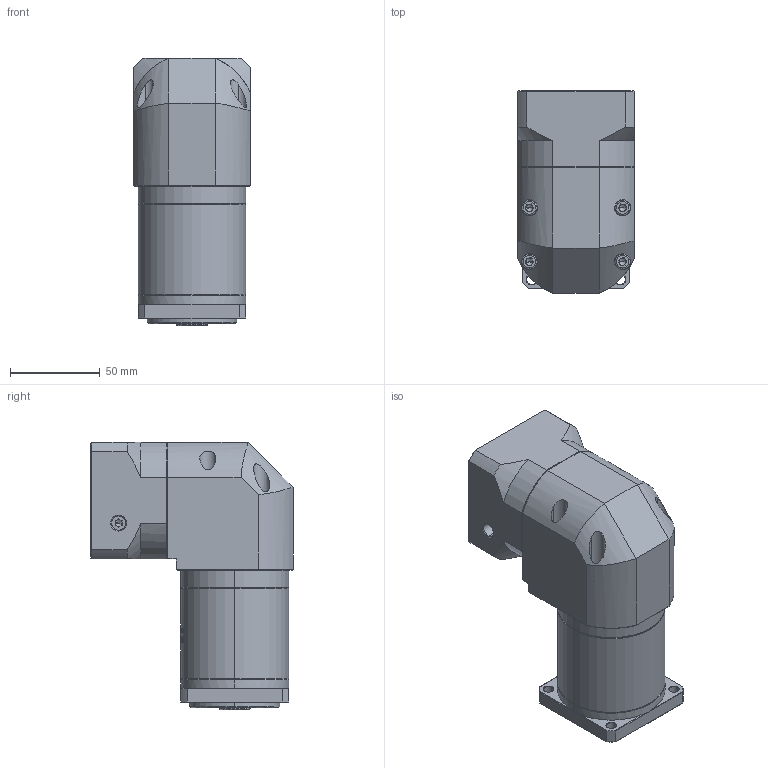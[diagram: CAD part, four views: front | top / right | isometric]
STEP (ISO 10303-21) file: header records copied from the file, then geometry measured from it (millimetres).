
FILE_DESCRIPTION (( 'STEP AP214' ), '1' );
FILE_NAME ('ZFR060-K10-L2-P2-14-60-75-M6.step', '2023-08-17T03:38:42', ( '' ), ( '' ), 'SwSTEP 2.0', 'SolidWorks 2016', '' );
FILE_SCHEMA (( 'AUTOMOTIVE_DESIGN' ));
Length unit declared in the file: millimetre
Products named in the file (1): ZFR060-K10-L2-P2-14-60-75-M6
Bounding box: 65 x 112.7 x 149 mm (x, y, z)
Volume: 593599.9 mm3; surface area: 82418.6 mm2
Topology: 5 solids, 6 shells, 1857 faces, 4986 edges, 3225 vertices
Faces by surface type: plane 840, cylinder 364, bspline 347, cone 282, torus 24
Entity records: 100348 total; most frequent: CARTESIAN_POINT 37280, ORIENTED_EDGE 9932, DIRECTION 7479, EDGE_CURVE 4966, VERTEX_POINT 3225, LINE 2555, VECTOR 2555, AXIS2_PLACEMENT_3D 2462
